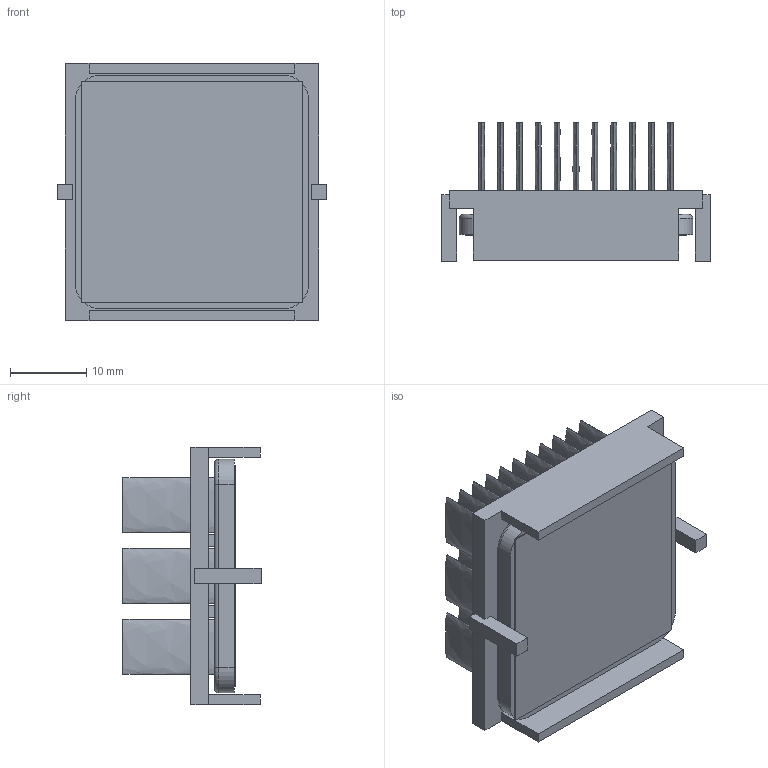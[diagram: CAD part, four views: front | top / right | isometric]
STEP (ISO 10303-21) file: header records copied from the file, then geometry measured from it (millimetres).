
FILE_DESCRIPTION (( 'STEP AP214' ), '1' );
FILE_NAME ('INM31001-15W-2.6Y.STEP', '2023-02-18T00:59:36', ( '' ), ( '' ), 'SwSTEP 2.0', 'SolidWorks 2020', '' );
FILE_SCHEMA (( 'AUTOMOTIVE_DESIGN' ));
Length unit declared in the file: inch
Products named in the file (1): INM31001-15W-2.6Y
Bounding box: 35.2 x 18.1 x 33.7 mm (x, y, z)
Volume: 5925.5 mm3; surface area: 12164.4 mm2
Topology: 3 solids, 3 shells, 177 faces, 406 edges, 268 vertices
Faces by surface type: plane 99, bspline 66, cylinder 8, torus 4
Entity records: 7461 total; most frequent: CARTESIAN_POINT 1710, ORIENTED_EDGE 812, DIRECTION 518, EDGE_CURVE 406, VERTEX_POINT 268, VECTOR 254, LINE 254, EDGE_LOOP 212
